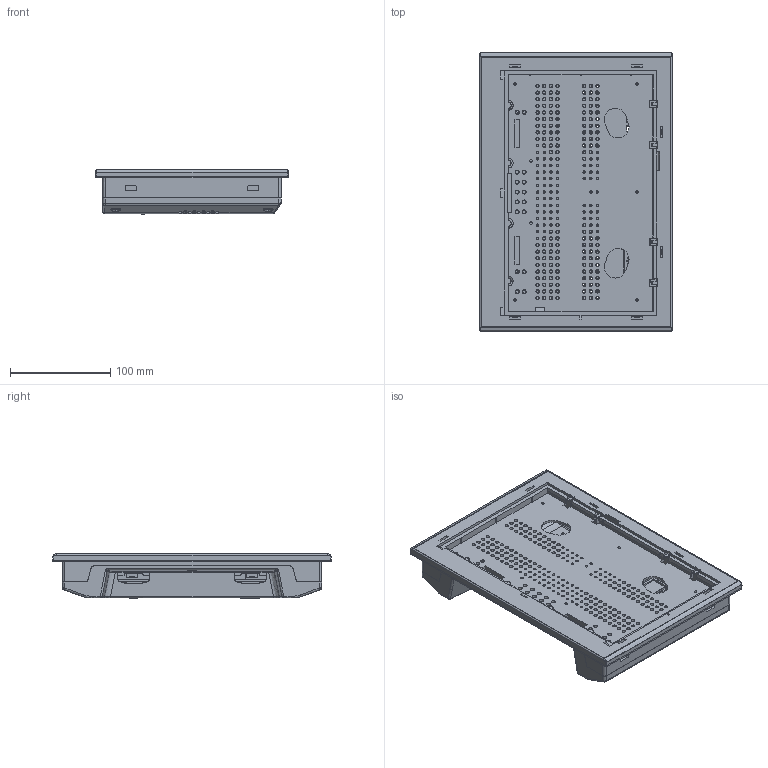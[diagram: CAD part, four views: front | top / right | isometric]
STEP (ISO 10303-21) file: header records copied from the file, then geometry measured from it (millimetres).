
FILE_DESCRIPTION(/* description */ (''),/* implementation_level */ '2;1');
FILE_NAME(/* name */ 'TGMA63~1',/* time_stamp */ '2022-11-30T15:39:02+08:00',/* author */ (''),/* organization */ (''),/* preprocessor_version */ 'ST-DEVELOPER v15',/* originating_system */ '',/* authorisation */ '');
FILE_SCHEMA (('AUTOMOTIVE_DESIGN'));
Products named in the file (1): Document
Bounding box: 191.69 x 277 x 44.28 mm (x, y, z)
Surface area: 205831.9 mm2 (no closed solid volume)
Topology: 0 solids, 3618 shells, 3618 faces, 19331 edges, 19329 vertices
Faces by surface type: plane 2662, bspline 956
Entity records: 205492 total; most frequent: CARTESIAN_POINT 86193, ORIENTED_EDGE 19335, EDGE_CURVE 19335, VERTEX_POINT 19333, B_SPLINE_CURVE_WITH_KNOTS 14678, EDGE_LOOP 4214, PRESENTATION_LAYER_ASSIGNMENT 3618, SHELL_BASED_SURFACE_MODEL 3618
